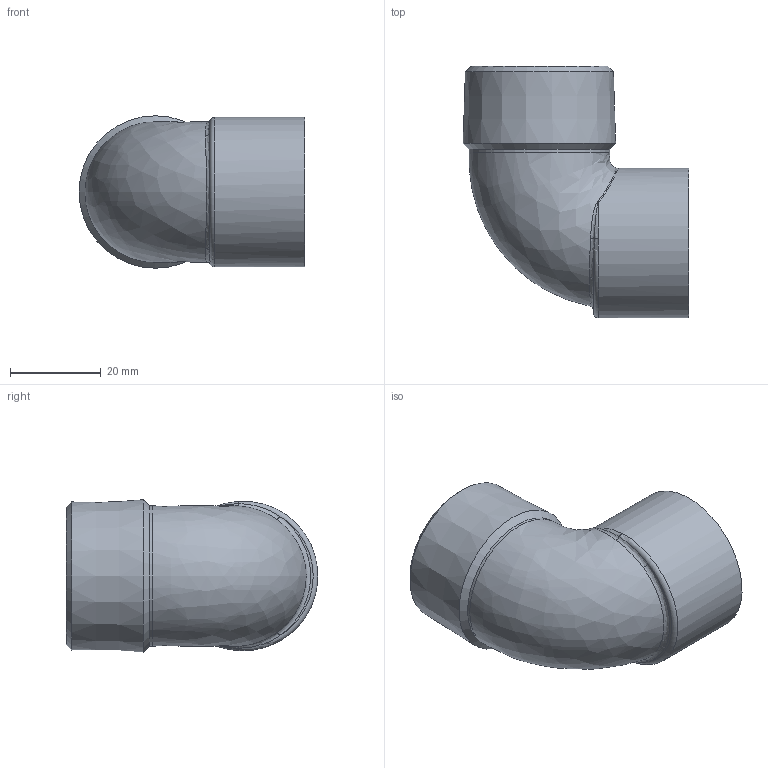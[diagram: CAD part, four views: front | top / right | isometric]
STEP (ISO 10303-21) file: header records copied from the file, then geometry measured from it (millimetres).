
FILE_DESCRIPTION(/* description */ (''),/* implementation_level */ '2;1');
FILE_NAME(/* name */ 'C:\Users\gomulka\Desktop\Technotrans_Angebot\14092_28-1.stp',/* time_stamp */ '2017-10-20T09:22:27+02:00',/* author */ ('gomulka'),/* organization */ (''),/* preprocessor_version */ 'ST-DEVELOPER v15.6',/* originating_system */ 'Autodesk Inventor 2015',/* authorisation */ '');
FILE_SCHEMA (('AUTOMOTIVE_DESIGN { 1 0 10303 214 3 1 1 }'));
Length unit declared in the file: millimetre
Products named in the file (1): 14092_28-1
Bounding box: 49.83 x 55.49 x 33.66 mm (x, y, z)
Volume: 15905.8 mm3; surface area: 12529.3 mm2
Topology: 1 solids, 1 shells, 25 faces, 59 edges, 33 vertices
Faces by surface type: bspline 11, plane 4, cylinder 4, torus 3, cone 3
Full cylindrical faces by diameter (mm): 26 x1, 28.12 x1, 31 x1, 33 x1
Entity records: 1504 total; most frequent: CARTESIAN_POINT 1030, ORIENTED_EDGE 92, DIRECTION 74, EDGE_CURVE 46, AXIS2_PLACEMENT_3D 37, EDGE_LOOP 35, VERTEX_POINT 31, FACE_OUTER_BOUND 25
